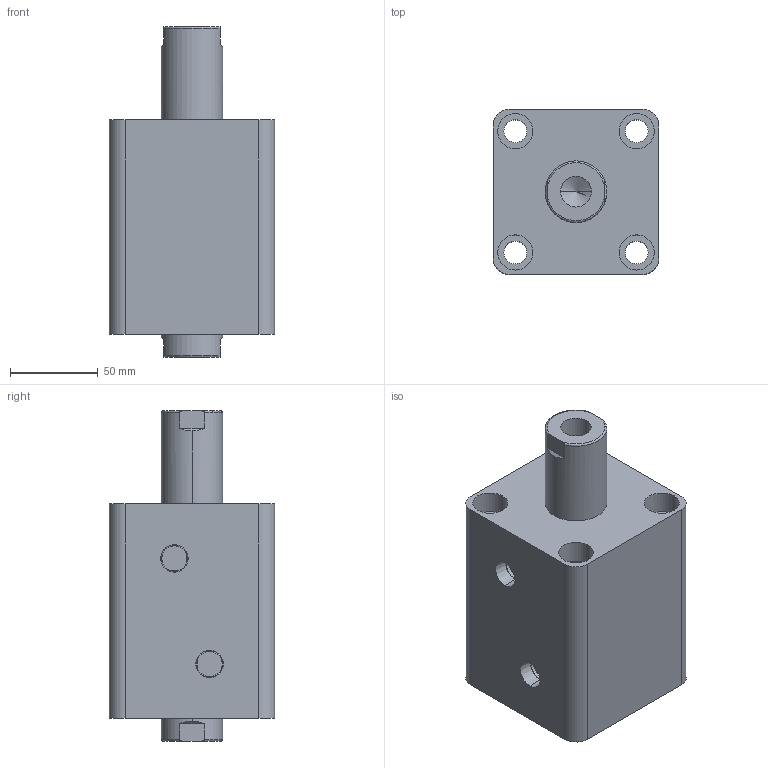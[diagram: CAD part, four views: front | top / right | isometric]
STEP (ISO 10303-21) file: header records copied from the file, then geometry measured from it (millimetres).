
FILE_DESCRIPTION (( 'STEP AP203' ), '1' );
FILE_NAME ('HTB-SW63-40N.STEP', '2019-10-07T10:04:34', ( '微软用户' ), ( '微软中国' ), 'SwSTEP 2.0', 'SolidWorks 2012', '' );
FILE_SCHEMA (( 'CONFIG_CONTROL_DESIGN' ));
Length unit declared in the file: millimetre
Products named in the file (3): HTB-SW63-40N; HTB-SW63-40N活塞杆; HTB-SW63-40掛极
Assembly tree (2 placements, depth 2):
  HTB-SW63-40N
    HTB-SW63-40掛极
    HTB-SW63-40N活塞杆
Bounding box: 94 x 94 x 188 mm (x, y, z)
Volume: 948355.2 mm3; surface area: 135266.5 mm2
Topology: 2 solids, 2 shells, 100 faces, 228 edges, 146 vertices
Faces by surface type: cylinder 48, plane 32, torus 12, cone 8
Entity records: 3253 total; most frequent: CARTESIAN_POINT 611, DIRECTION 542, ORIENTED_EDGE 448, AXIS2_PLACEMENT_3D 229, EDGE_CURVE 224, VERTEX_POINT 146, EDGE_LOOP 128, CIRCLE 124
